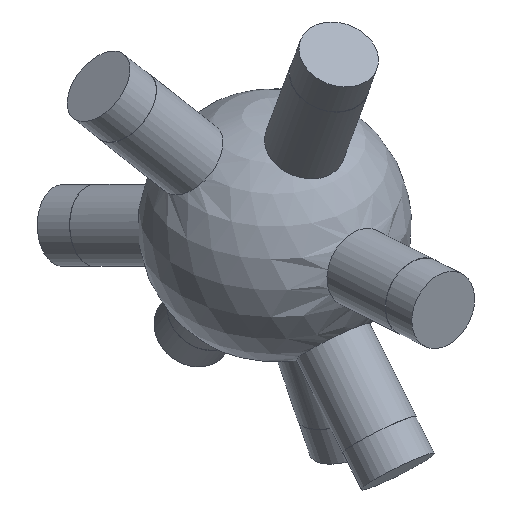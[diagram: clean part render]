
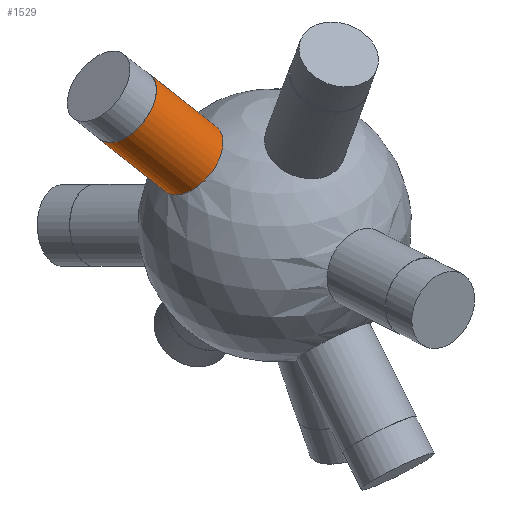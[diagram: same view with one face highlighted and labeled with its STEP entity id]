
A CAD part, isometric view. The second image highlights one B-rep face of the part: STEP entity #1529.
In plain terms, the highlighted cylindrical face has radius 6 mm (diameter 12 mm), a full revolution.
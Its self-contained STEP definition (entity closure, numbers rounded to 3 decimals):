
#33 = SPHERICAL_SURFACE('',#34,20.);
#34 = AXIS2_PLACEMENT_3D('',#35,#36,#37);
#35 = CARTESIAN_POINT('',(0.,0.,0.));
#36 = DIRECTION('',(0.,0.,1.));
#37 = DIRECTION('',(1.,0.,-0.));
#888 = EDGE_CURVE('',#889,#889,#891,.T.);
#889 = VERTEX_POINT('',#890);
#890 = CARTESIAN_POINT('',(-6.385,6.118,
    17.939));
#891 = SURFACE_CURVE('',#892,(#897,#973),.PCURVE_S1.);
#892 = CIRCLE('',#893,6.);
#893 = AXIS2_PLACEMENT_3D('',#894,#895,#896);
#894 = CARTESIAN_POINT('',(-11.115,6.118,14.248
    ));
#895 = DIRECTION('',(-0.583,0.321,0.747));
#896 = DIRECTION('',(-0.788,0.,-0.615
    ));
#897 = PCURVE('',#33,#898);
#898 = DEFINITIONAL_REPRESENTATION('',(#899),#972);
#899 = B_SPLINE_CURVE_WITH_KNOTS('',8,(#900,#901,#902,#903,#904,#905,
    #906,#907,#908,#909,#910,#911,#912,#913,#914,#915,#916,#917,#918,
    #919,#920,#921,#922,#923,#924,#925,#926,#927,#928,#929,#930,#931,
    #932,#933,#934,#935,#936,#937,#938,#939,#940,#941,#942,#943,#944,
    #945,#946,#947,#948,#949,#950,#951,#952,#953,#954,#955,#956,#957,
    #958,#959,#960,#961,#962,#963,#964,#965,#966,#967,#968,#969,#970,
    #971),.UNSPECIFIED.,.T.,.F.,(9,7,7,7,7,7,7,7,7,7,9),(3.142,
    3.534,4.271,5.559,6.526,
    7.25,7.794,8.202,8.813,
    9.119,9.425),.UNSPECIFIED.);
#900 = CARTESIAN_POINT('',(2.377,1.113));
#901 = CARTESIAN_POINT('',(2.35,1.104));
#902 = CARTESIAN_POINT('',(2.325,1.095));
#903 = CARTESIAN_POINT('',(2.302,1.085));
#904 = CARTESIAN_POINT('',(2.281,1.074));
#905 = CARTESIAN_POINT('',(2.263,1.062));
#906 = CARTESIAN_POINT('',(2.246,1.049));
#907 = CARTESIAN_POINT('',(2.232,1.037));
#908 = CARTESIAN_POINT('',(2.197,0.998));
#909 = CARTESIAN_POINT('',(2.181,0.972));
#910 = CARTESIAN_POINT('',(2.171,0.945));
#911 = CARTESIAN_POINT('',(2.167,0.917));
#912 = CARTESIAN_POINT('',(2.167,0.889));
#913 = CARTESIAN_POINT('',(2.171,0.862));
#914 = CARTESIAN_POINT('',(2.179,0.834));
#915 = CARTESIAN_POINT('',(2.209,0.761));
#916 = CARTESIAN_POINT('',(2.238,0.717));
#917 = CARTESIAN_POINT('',(2.275,0.676));
#918 = CARTESIAN_POINT('',(2.317,0.64));
#919 = CARTESIAN_POINT('',(2.364,0.608));
#920 = CARTESIAN_POINT('',(2.415,0.583));
#921 = CARTESIAN_POINT('',(2.468,0.564));
#922 = CARTESIAN_POINT('',(2.564,0.542));
#923 = CARTESIAN_POINT('',(2.606,0.537));
#924 = CARTESIAN_POINT('',(2.648,0.535));
#925 = CARTESIAN_POINT('',(2.691,0.537));
#926 = CARTESIAN_POINT('',(2.733,0.543));
#927 = CARTESIAN_POINT('',(2.774,0.553));
#928 = CARTESIAN_POINT('',(2.814,0.567));
#929 = CARTESIAN_POINT('',(2.881,0.597));
#930 = CARTESIAN_POINT('',(2.909,0.612));
#931 = CARTESIAN_POINT('',(2.936,0.628));
#932 = CARTESIAN_POINT('',(2.961,0.647));
#933 = CARTESIAN_POINT('',(2.985,0.667));
#934 = CARTESIAN_POINT('',(3.007,0.688));
#935 = CARTESIAN_POINT('',(3.027,0.711));
#936 = CARTESIAN_POINT('',(3.058,0.752));
#937 = CARTESIAN_POINT('',(3.07,0.771));
#938 = CARTESIAN_POINT('',(3.08,0.79));
#939 = CARTESIAN_POINT('',(3.089,0.809));
#940 = CARTESIAN_POINT('',(3.097,0.829));
#941 = CARTESIAN_POINT('',(3.102,0.849));
#942 = CARTESIAN_POINT('',(3.105,0.87));
#943 = CARTESIAN_POINT('',(3.107,0.905));
#944 = CARTESIAN_POINT('',(3.106,0.921));
#945 = CARTESIAN_POINT('',(3.104,0.936));
#946 = CARTESIAN_POINT('',(3.101,0.951));
#947 = CARTESIAN_POINT('',(3.096,0.966));
#948 = CARTESIAN_POINT('',(3.089,0.981));
#949 = CARTESIAN_POINT('',(3.08,0.995));
#950 = CARTESIAN_POINT('',(3.052,1.031));
#951 = CARTESIAN_POINT('',(3.031,1.051));
#952 = CARTESIAN_POINT('',(3.005,1.07));
#953 = CARTESIAN_POINT('',(2.974,1.088));
#954 = CARTESIAN_POINT('',(2.937,1.104));
#955 = CARTESIAN_POINT('',(2.894,1.117));
#956 = CARTESIAN_POINT('',(2.847,1.128));
#957 = CARTESIAN_POINT('',(2.77,1.14));
#958 = CARTESIAN_POINT('',(2.744,1.143));
#959 = CARTESIAN_POINT('',(2.716,1.146));
#960 = CARTESIAN_POINT('',(2.689,1.148));
#961 = CARTESIAN_POINT('',(2.661,1.148));
#962 = CARTESIAN_POINT('',(2.633,1.149));
#963 = CARTESIAN_POINT('',(2.605,1.148));
#964 = CARTESIAN_POINT('',(2.55,1.145));
#965 = CARTESIAN_POINT('',(2.522,1.142));
#966 = CARTESIAN_POINT('',(2.496,1.139));
#967 = CARTESIAN_POINT('',(2.47,1.135));
#968 = CARTESIAN_POINT('',(2.445,1.131));
#969 = CARTESIAN_POINT('',(2.421,1.125));
#970 = CARTESIAN_POINT('',(2.399,1.119));
#971 = CARTESIAN_POINT('',(2.377,1.113));
#972 = ( GEOMETRIC_REPRESENTATION_CONTEXT(2) 
PARAMETRIC_REPRESENTATION_CONTEXT() REPRESENTATION_CONTEXT('2D SPACE',''
  ) );
#973 = PCURVE('',#974,#979);
#974 = CYLINDRICAL_SURFACE('',#975,6.);
#975 = AXIS2_PLACEMENT_3D('',#976,#977,#978);
#976 = CARTESIAN_POINT('',(0.,0.,0.));
#977 = DIRECTION('',(-0.583,0.321,0.747));
#978 = DIRECTION('',(0.788,0.,0.615));
#979 = DEFINITIONAL_REPRESENTATION('',(#980),#984);
#980 = LINE('',#981,#982);
#981 = CARTESIAN_POINT('',(-3.142,19.079));
#982 = VECTOR('',#983,1.);
#983 = DIRECTION('',(1.,0.));
#984 = ( GEOMETRIC_REPRESENTATION_CONTEXT(2) 
PARAMETRIC_REPRESENTATION_CONTEXT() REPRESENTATION_CONTEXT('2D SPACE',''
  ) );
#1529 = ADVANCED_FACE('',(#1530),#974,.T.);
#1530 = FACE_BOUND('',#1531,.T.);
#1531 = EDGE_LOOP('',(#1532,#1555,#1582,#1583));
#1532 = ORIENTED_EDGE('',*,*,#1533,.T.);
#1533 = EDGE_CURVE('',#889,#1534,#1536,.T.);
#1534 = VERTEX_POINT('',#1535);
#1535 = CARTESIAN_POINT('',(-15.224,10.984,
    29.269));
#1536 = SEAM_CURVE('',#1537,(#1541,#1548),.PCURVE_S1.);
#1537 = LINE('',#1538,#1539);
#1538 = CARTESIAN_POINT('',(4.731,0.,
    3.691));
#1539 = VECTOR('',#1540,1.);
#1540 = DIRECTION('',(-0.583,0.321,0.747));
#1541 = PCURVE('',#974,#1542);
#1542 = DEFINITIONAL_REPRESENTATION('',(#1543),#1547);
#1543 = LINE('',#1544,#1545);
#1544 = CARTESIAN_POINT('',(6.283,-0.));
#1545 = VECTOR('',#1546,1.);
#1546 = DIRECTION('',(0.,1.));
#1547 = ( GEOMETRIC_REPRESENTATION_CONTEXT(2) 
PARAMETRIC_REPRESENTATION_CONTEXT() REPRESENTATION_CONTEXT('2D SPACE',''
  ) );
#1548 = PCURVE('',#974,#1549);
#1549 = DEFINITIONAL_REPRESENTATION('',(#1550),#1554);
#1550 = LINE('',#1551,#1552);
#1551 = CARTESIAN_POINT('',(0.,-0.));
#1552 = VECTOR('',#1553,1.);
#1553 = DIRECTION('',(0.,1.));
#1554 = ( GEOMETRIC_REPRESENTATION_CONTEXT(2) 
PARAMETRIC_REPRESENTATION_CONTEXT() REPRESENTATION_CONTEXT('2D SPACE',''
  ) );
#1555 = ORIENTED_EDGE('',*,*,#1556,.F.);
#1556 = EDGE_CURVE('',#1534,#1534,#1557,.T.);
#1557 = SURFACE_CURVE('',#1558,(#1563,#1570),.PCURVE_S1.);
#1558 = CIRCLE('',#1559,6.);
#1559 = AXIS2_PLACEMENT_3D('',#1560,#1561,#1562);
#1560 = CARTESIAN_POINT('',(-19.955,10.984,
    25.579));
#1561 = DIRECTION('',(-0.583,0.321,0.747));
#1562 = DIRECTION('',(0.788,0.,0.615)
  );
#1563 = PCURVE('',#974,#1564);
#1564 = DEFINITIONAL_REPRESENTATION('',(#1565),#1569);
#1565 = LINE('',#1566,#1567);
#1566 = CARTESIAN_POINT('',(0.,34.251));
#1567 = VECTOR('',#1568,1.);
#1568 = DIRECTION('',(1.,0.));
#1569 = ( GEOMETRIC_REPRESENTATION_CONTEXT(2) 
PARAMETRIC_REPRESENTATION_CONTEXT() REPRESENTATION_CONTEXT('2D SPACE',''
  ) );
#1570 = PCURVE('',#1571,#1576);
#1571 = PLANE('',#1572);
#1572 = AXIS2_PLACEMENT_3D('',#1573,#1574,#1575);
#1573 = CARTESIAN_POINT('',(-19.955,10.984,
    25.579));
#1574 = DIRECTION('',(-0.583,0.321,0.747));
#1575 = DIRECTION('',(0.788,0.,0.615)
  );
#1576 = DEFINITIONAL_REPRESENTATION('',(#1577),#1581);
#1577 = CIRCLE('',#1578,6.);
#1578 = AXIS2_PLACEMENT_2D('',#1579,#1580);
#1579 = CARTESIAN_POINT('',(0.,0.));
#1580 = DIRECTION('',(1.,0.));
#1581 = ( GEOMETRIC_REPRESENTATION_CONTEXT(2) 
PARAMETRIC_REPRESENTATION_CONTEXT() REPRESENTATION_CONTEXT('2D SPACE',''
  ) );
#1582 = ORIENTED_EDGE('',*,*,#1533,.F.);
#1583 = ORIENTED_EDGE('',*,*,#888,.T.);
